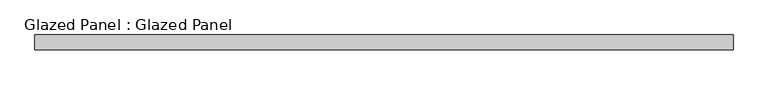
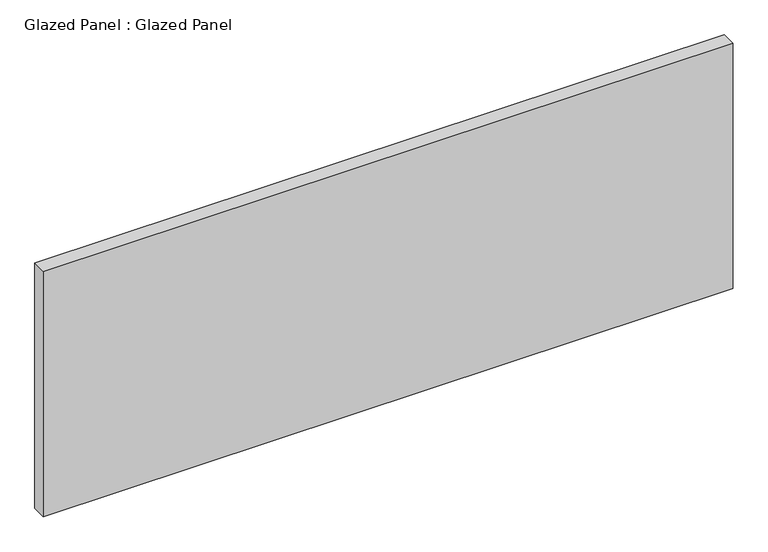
"""IFC4 building model written with IfcOpenShell, lengths in millimetres: plate geometry, Glazed Panel : Glazed Panel."""

from ifc_helpers import new_model, si_unit, origin, origin_with_axes, place, context, project, spatial, polyline, outline, extrude, source, transform, mapped, element, save


def glazed_panel_glazed_panel_3fd04a3e(model_context):
    return source(origin(), model_context, "Body", "SweptSolid", [
        extrude(outline(polyline([(600.3827129, 38.1), (-600.3827129, 38.1), (-600.3827129, 63.5), (600.3827129, 63.5), (600.3827129, 38.1)])), origin_with_axes(), (0.0, 0.0, 1.0), 452.1422814),
    ])


if __name__ == "__main__":
    model = new_model("IFC4")
    model_context = context("Model", 3, world=origin())
    ifc_project = project(units=[si_unit("LENGTHUNIT", "METRE", prefix="MILLI")], contexts=[model_context])
    site = spatial("IfcSite", under=ifc_project)
    building = spatial("IfcBuilding", under=site)
    placement = place(None, origin())
    glazed_panel_glazed_panel_shape = glazed_panel_glazed_panel_3fd04a3e(model_context)
    element("IfcPlate", 1, ObjectType="Glazed Panel : Glazed Panel", at=placement, inside=building, context=model_context, shape_type="MappedRepresentation", body=[
        mapped(glazed_panel_glazed_panel_shape, transform((0.0, 0.0, 0.0), x_axis=(1.0, 0.0, 0.0), y_axis=(0.0, 1.0, 0.0), z_axis=(0.0, 0.0, 1.0))),
    ])
    save(model, "model.ifc")
